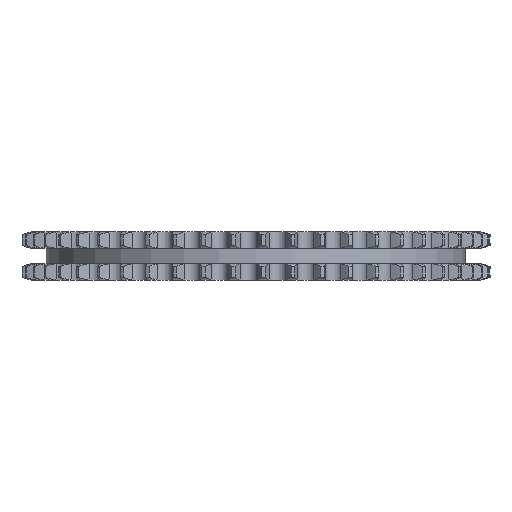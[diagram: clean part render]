
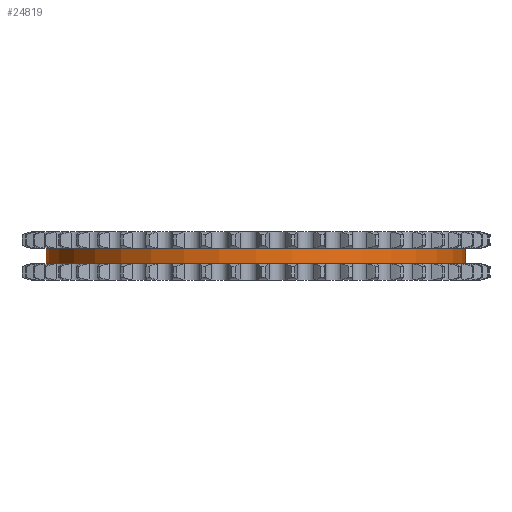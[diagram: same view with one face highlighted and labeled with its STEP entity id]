
A CAD part, left-side view. The second image highlights one B-rep face of the part: STEP entity #24819.
In plain terms, the highlighted cylindrical face has radius 91.11 mm (diameter 182.22 mm), a partial arc.
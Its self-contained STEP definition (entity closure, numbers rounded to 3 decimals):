
#5068=DIRECTION('',(0.,0.,-1.));
#5069=VECTOR('',#5068,6.6);
#5070=CARTESIAN_POINT('',(0.,91.11,3.3));
#5071=LINE('',#5070,#5069);
#5075=CARTESIAN_POINT('',(0.,0.,3.3));
#5076=DIRECTION('',(0.,0.,1.));
#5077=DIRECTION('',(0.,1.,0.));
#5078=AXIS2_PLACEMENT_3D('',#5075,#5076,#5077);
#5083=DIRECTION('',(0.,0.,-1.));
#5084=VECTOR('',#5083,6.6);
#5085=CARTESIAN_POINT('',(0.,-91.11,3.3));
#5086=LINE('',#5085,#5084);
#5090=CARTESIAN_POINT('',(0.,0.,-3.3));
#5091=DIRECTION('',(0.,0.,1.));
#5092=DIRECTION('',(0.,1.,0.));
#5093=AXIS2_PLACEMENT_3D('',#5090,#5091,#5092);
#17874=CARTESIAN_POINT('',(0.,91.11,3.3));
#17875=CARTESIAN_POINT('',(0.,91.11,-3.3));
#17876=VERTEX_POINT('',#17874);
#17877=VERTEX_POINT('',#17875);
#17878=CARTESIAN_POINT('',(0.,-91.11,3.3));
#17879=CARTESIAN_POINT('',(0.,-91.11,-3.3));
#17880=VERTEX_POINT('',#17878);
#17881=VERTEX_POINT('',#17879);
#24807=CARTESIAN_POINT('',(0.,0.,3.63));
#24808=DIRECTION('',(0.,0.,-1.));
#24809=DIRECTION('',(0.,-1.,0.));
#24810=AXIS2_PLACEMENT_3D('',#24807,#24808,#24809);
#24811=CYLINDRICAL_SURFACE('',#24810,91.11);
#24812=ORIENTED_EDGE('',*,*,#24797,.F.);
#24813=ORIENTED_EDGE('',*,*,#24787,.T.);
#24814=ORIENTED_EDGE('',*,*,#24801,.T.);
#24816=ORIENTED_EDGE('',*,*,#24815,.F.);
#24817=EDGE_LOOP('',(#24812,#24813,#24814,#24816));
#24818=FACE_OUTER_BOUND('',#24817,.F.);
#24819=ADVANCED_FACE('',(#24818),#24811,.T.);
#5079=CIRCLE('',#5078,91.11);
#5094=CIRCLE('',#5093,91.11);
#24787=EDGE_CURVE('',#17876,#17880,#5079,.T.);
#24797=EDGE_CURVE('',#17876,#17877,#5071,.T.);
#24801=EDGE_CURVE('',#17880,#17881,#5086,.T.);
#24815=EDGE_CURVE('',#17877,#17881,#5094,.T.);
